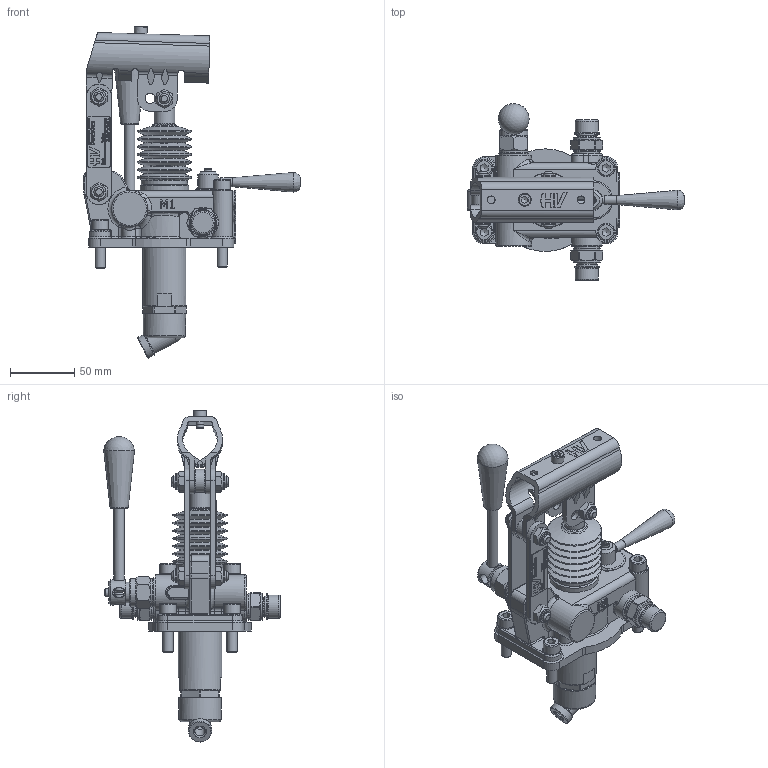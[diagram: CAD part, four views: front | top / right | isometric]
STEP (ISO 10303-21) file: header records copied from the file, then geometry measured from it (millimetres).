
FILE_DESCRIPTION((''),'2;1');
FILE_NAME('G:\HV_HYDRAULIC\AZIENDA_HV_HYDRAULIC\ARCHIVIO_DISEGNI\5_PRODOTTI_FINITI\1_POMPE_MANUALI\6054_PMD_6\6054.0052_PMD_6_dna-L-s_(HV)\6054.0052.stp','2024-02-29T15:30:41',('christian.scardovi'),(''),'Autodesk Inventor 2013','Autodesk Inventor 2013','');
FILE_SCHEMA(('AUTOMOTIVE_DESIGN { 1 0 10303 214 1 1 1 1 }'));
Length unit declared in the file: millimetre
Products named in the file (1): 6054.0052
Bounding box: 169 x 137.49 x 258.54 mm (x, y, z)
Surface area: 142025.1 mm2
Topology: 2 solids, 3 shells, 1615 faces, 4067 edges, 2573 vertices
Faces by surface type: plane 769, cylinder 345, bspline 185, cone 174, torus 128, sphere 14
Full cylindrical faces by diameter (mm): 4 x2, 4.917 x2, 5 x7, 6 x8, 6.5 x1, 7 x1, 8 x18, 8.566 x1, 9 x4, 9.2 x1, 10 x5, 11.05 x6, 11.445 x2, 12 x5, 13 x4, 13.2 x1, 14 x4, 14.95 x1, 15 x2, 15.9 x2, 16 x6, 16.6 x2, 18 x7, 18.1 x1, 19 x2, 20 x3, 21 x6, 21.8 x2, 22 x1, 22.4 x2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
Entity records: 50398 total; most frequent: CARTESIAN_POINT 13098, ORIENTED_EDGE 7304, DIRECTION 6889, EDGE_CURVE 3652, AXIS2_PLACEMENT_3D 2489, VERTEX_POINT 2469, EDGE_LOOP 2081, VECTOR 1911
